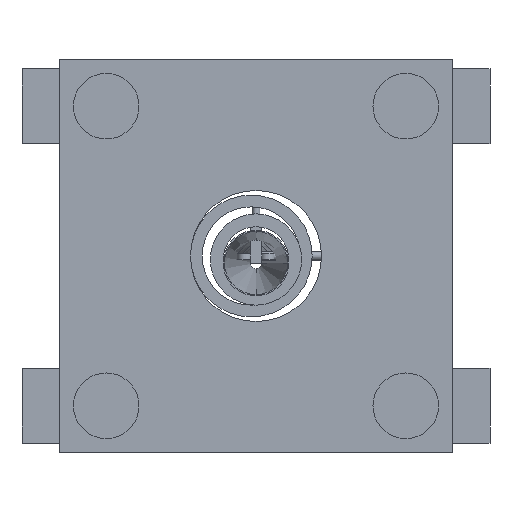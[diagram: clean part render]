
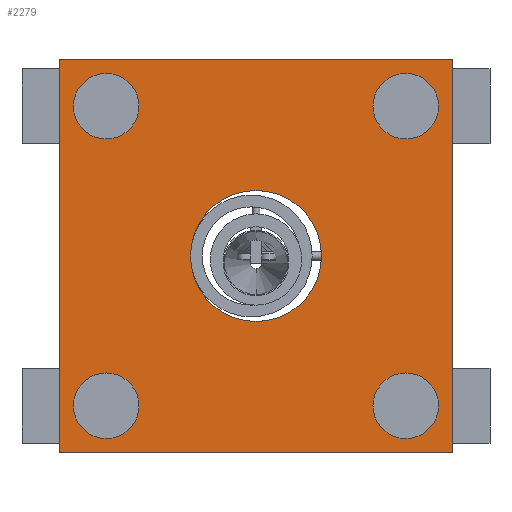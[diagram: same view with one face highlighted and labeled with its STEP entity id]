
A CAD part, front view. The second image highlights one B-rep face of the part: STEP entity #2279.
In plain terms, the highlighted planar face has unit normal (0, -1, 0).
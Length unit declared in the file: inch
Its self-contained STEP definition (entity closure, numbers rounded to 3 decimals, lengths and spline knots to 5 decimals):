
#4 = CARTESIAN_POINT ( 'NONE',  ( 1259.84252, -196.85039, 1259.84252 ) ) ;
#24 = VERTEX_POINT ( 'NONE', #1193 ) ;
#32 = EDGE_CURVE ( 'NONE', #24, #1359, #1750, .T. ) ;
#40 = ORIENTED_EDGE ( 'NONE', *, *, #789, .F. ) ;
#50 = CIRCLE ( 'NONE', #3032, 275.59055 ) ;
#67 = DIRECTION ( 'NONE',  ( 0., -1., 0. ) ) ;
#133 = DIRECTION ( 'NONE',  ( 0., -1., 0. ) ) ;
#195 = LINE ( 'NONE', #245, #1699 ) ;
#225 = ORIENTED_EDGE ( 'NONE', *, *, #3270, .F. ) ;
#236 = DIRECTION ( 'NONE',  ( 0., 0., -1. ) ) ;
#245 = CARTESIAN_POINT ( 'NONE',  ( 1653.54331, -196.85039, 1653.54331 ) ) ;
#260 = CARTESIAN_POINT ( 'NONE',  ( -1259.84252, -196.85039, 1259.84252 ) ) ;
#274 = VERTEX_POINT ( 'NONE', #2112 ) ;
#301 = EDGE_CURVE ( 'NONE', #920, #1444, #853, .T. ) ;
#304 = ORIENTED_EDGE ( 'NONE', *, *, #2432, .F. ) ;
#305 = DIRECTION ( 'NONE',  ( 0., 0., -1. ) ) ;
#365 = VERTEX_POINT ( 'NONE', #3228 ) ;
#411 = ORIENTED_EDGE ( 'NONE', *, *, #2537, .F. ) ;
#419 = CARTESIAN_POINT ( 'NONE',  ( -1259.84252, -196.85039, 1259.84252 ) ) ;
#437 = VECTOR ( 'NONE', #2660, 39.37008 ) ;
#444 = FACE_BOUND ( 'NONE', #2447, .T. ) ;
#449 = EDGE_CURVE ( 'NONE', #365, #2280, #1205, .T. ) ;
#468 = VERTEX_POINT ( 'NONE', #937 ) ;
#516 = DIRECTION ( 'NONE',  ( 0., 0., -1. ) ) ;
#542 = ORIENTED_EDGE ( 'NONE', *, *, #926, .T. ) ;
#579 = CARTESIAN_POINT ( 'NONE',  ( -1259.84252, -196.85039, -1259.84252 ) ) ;
#622 = CARTESIAN_POINT ( 'NONE',  ( 0., -196.85039, 0. ) ) ;
#657 = DIRECTION ( 'NONE',  ( 0., 1., 0. ) ) ;
#662 = PLANE ( 'NONE',  #2482 ) ;
#680 = EDGE_LOOP ( 'NONE', ( #225, #1183, #304, #1433 ) ) ;
#702 = DIRECTION ( 'NONE',  ( 0., 1., 0. ) ) ;
#721 = ORIENTED_EDGE ( 'NONE', *, *, #1813, .T. ) ;
#789 = EDGE_CURVE ( 'NONE', #3096, #3074, #1579, .T. ) ;
#798 = AXIS2_PLACEMENT_3D ( 'NONE', #622, #1877, #2904 ) ;
#820 = CARTESIAN_POINT ( 'NONE',  ( 1259.84252, -196.85039, -1535.43307 ) ) ;
#853 = LINE ( 'NONE', #2661, #1524 ) ;
#866 = DIRECTION ( 'NONE',  ( -1., 0., 0. ) ) ;
#888 = AXIS2_PLACEMENT_3D ( 'NONE', #1129, #1437, #1145 ) ;
#914 = VERTEX_POINT ( 'NONE', #2173 ) ;
#920 = VERTEX_POINT ( 'NONE', #2739 ) ;
#921 = CARTESIAN_POINT ( 'NONE',  ( -1653.54331, -196.85039, 1653.54331 ) ) ;
#926 = EDGE_CURVE ( 'NONE', #1687, #2773, #2974, .T. ) ;
#937 = CARTESIAN_POINT ( 'NONE',  ( -1259.84252, -196.85039, 1535.43307 ) ) ;
#946 = CIRCLE ( 'NONE', #1531, 551.1811 ) ;
#1033 = ORIENTED_EDGE ( 'NONE', *, *, #32, .T. ) ;
#1097 = CIRCLE ( 'NONE', #888, 275.59055 ) ;
#1129 = CARTESIAN_POINT ( 'NONE',  ( -1259.84252, -196.85039, -1259.84252 ) ) ;
#1145 = DIRECTION ( 'NONE',  ( 0., 0., -1. ) ) ;
#1161 = CIRCLE ( 'NONE', #1375, 275.59055 ) ;
#1183 = ORIENTED_EDGE ( 'NONE', *, *, #301, .F. ) ;
#1193 = CARTESIAN_POINT ( 'NONE',  ( 0., -196.85039, 551.1811 ) ) ;
#1205 = LINE ( 'NONE', #921, #2253 ) ;
#1253 = ORIENTED_EDGE ( 'NONE', *, *, #2579, .F. ) ;
#1312 = CIRCLE ( 'NONE', #1481, 275.59055 ) ;
#1340 = FACE_BOUND ( 'NONE', #1585, .T. ) ;
#1359 = VERTEX_POINT ( 'NONE', #1942 ) ;
#1375 = AXIS2_PLACEMENT_3D ( 'NONE', #4, #702, #2217 ) ;
#1401 = EDGE_CURVE ( 'NONE', #2042, #914, #1097, .T. ) ;
#1416 = DIRECTION ( 'NONE',  ( 0., -1., 0. ) ) ;
#1433 = ORIENTED_EDGE ( 'NONE', *, *, #449, .F. ) ;
#1437 = DIRECTION ( 'NONE',  ( 0., -1., 0. ) ) ;
#1444 = VERTEX_POINT ( 'NONE', #1465 ) ;
#1448 = FACE_BOUND ( 'NONE', #2689, .T. ) ;
#1465 = CARTESIAN_POINT ( 'NONE',  ( -1653.54331, -196.85039, -1653.54331 ) ) ;
#1472 = DIRECTION ( 'NONE',  ( 0., 1., 0. ) ) ;
#1481 = AXIS2_PLACEMENT_3D ( 'NONE', #419, #657, #1971 ) ;
#1510 = DIRECTION ( 'NONE',  ( 0., 0., -1. ) ) ;
#1524 = VECTOR ( 'NONE', #866, 39.37008 ) ;
#1531 = AXIS2_PLACEMENT_3D ( 'NONE', #3230, #1472, #1710 ) ;
#1555 = CARTESIAN_POINT ( 'NONE',  ( 1259.84252, -196.85039, 1535.43307 ) ) ;
#1579 = CIRCLE ( 'NONE', #1945, 275.59055 ) ;
#1585 = EDGE_LOOP ( 'NONE', ( #1253, #1780 ) ) ;
#1606 = CARTESIAN_POINT ( 'NONE',  ( -1653.54331, -196.85039, 1653.54331 ) ) ;
#1609 = CARTESIAN_POINT ( 'NONE',  ( 1259.84252, -196.85039, 984.25197 ) ) ;
#1687 = VERTEX_POINT ( 'NONE', #1609 ) ;
#1699 = VECTOR ( 'NONE', #1510, 39.37008 ) ;
#1710 = DIRECTION ( 'NONE',  ( 0., 0., 1. ) ) ;
#1713 = DIRECTION ( 'NONE',  ( 0., -1., 0. ) ) ;
#1741 = DIRECTION ( 'NONE',  ( 0., 0., -1. ) ) ;
#1750 = CIRCLE ( 'NONE', #798, 551.1811 ) ;
#1780 = ORIENTED_EDGE ( 'NONE', *, *, #1401, .F. ) ;
#1781 = CARTESIAN_POINT ( 'NONE',  ( 1259.84252, -196.85039, 1259.84252 ) ) ;
#1813 = EDGE_CURVE ( 'NONE', #1359, #24, #946, .T. ) ;
#1860 = EDGE_CURVE ( 'NONE', #468, #274, #1312, .T. ) ;
#1870 = CARTESIAN_POINT ( 'NONE',  ( -1259.84252, -196.85039, -1535.43307 ) ) ;
#1877 = DIRECTION ( 'NONE',  ( 0., 1., 0. ) ) ;
#1942 = CARTESIAN_POINT ( 'NONE',  ( 0., -196.85039, -551.1811 ) ) ;
#1945 = AXIS2_PLACEMENT_3D ( 'NONE', #2122, #133, #3176 ) ;
#1971 = DIRECTION ( 'NONE',  ( 0., 0., -1. ) ) ;
#1988 = DIRECTION ( 'NONE',  ( 0., 1., 0. ) ) ;
#2042 = VERTEX_POINT ( 'NONE', #1870 ) ;
#2077 = ORIENTED_EDGE ( 'NONE', *, *, #2448, .T. ) ;
#2094 = LINE ( 'NONE', #1606, #437 ) ;
#2112 = CARTESIAN_POINT ( 'NONE',  ( -1259.84252, -196.85039, 984.25197 ) ) ;
#2122 = CARTESIAN_POINT ( 'NONE',  ( 1259.84252, -196.85039, -1259.84252 ) ) ;
#2167 = CARTESIAN_POINT ( 'NONE',  ( 1653.54331, -196.85039, 1653.54331 ) ) ;
#2173 = CARTESIAN_POINT ( 'NONE',  ( -1259.84252, -196.85039, -984.25197 ) ) ;
#2214 = AXIS2_PLACEMENT_3D ( 'NONE', #3000, #1713, #516 ) ;
#2217 = DIRECTION ( 'NONE',  ( 0., 0., -1. ) ) ;
#2253 = VECTOR ( 'NONE', #2996, 39.37008 ) ;
#2275 = CARTESIAN_POINT ( 'NONE',  ( 1259.84252, -196.85039, -984.25197 ) ) ;
#2279 = ADVANCED_FACE ( 'NONE', ( #1340, #2351, #444, #1448, #2889, #3185 ), #662, .T. ) ;
#2280 = VERTEX_POINT ( 'NONE', #2167 ) ;
#2351 = FACE_BOUND ( 'NONE', #3204, .T. ) ;
#2432 = EDGE_CURVE ( 'NONE', #2280, #920, #195, .T. ) ;
#2447 = EDGE_LOOP ( 'NONE', ( #2905, #3094 ) ) ;
#2448 = EDGE_CURVE ( 'NONE', #2773, #1687, #1161, .T. ) ;
#2451 = EDGE_CURVE ( 'NONE', #274, #468, #50, .T. ) ;
#2482 = AXIS2_PLACEMENT_3D ( 'NONE', #2951, #1416, #2653 ) ;
#2537 = EDGE_CURVE ( 'NONE', #3074, #3096, #2806, .T. ) ;
#2579 = EDGE_CURVE ( 'NONE', #914, #2042, #2749, .T. ) ;
#2646 = EDGE_LOOP ( 'NONE', ( #1033, #721 ) ) ;
#2653 = DIRECTION ( 'NONE',  ( 0., 0., -1. ) ) ;
#2660 = DIRECTION ( 'NONE',  ( 0., 0., 1. ) ) ;
#2661 = CARTESIAN_POINT ( 'NONE',  ( -1653.54331, -196.85039, -1653.54331 ) ) ;
#2689 = EDGE_LOOP ( 'NONE', ( #2077, #542 ) ) ;
#2739 = CARTESIAN_POINT ( 'NONE',  ( 1653.54331, -196.85039, -1653.54331 ) ) ;
#2749 = CIRCLE ( 'NONE', #2980, 275.59055 ) ;
#2773 = VERTEX_POINT ( 'NONE', #1555 ) ;
#2806 = CIRCLE ( 'NONE', #2214, 275.59055 ) ;
#2889 = FACE_BOUND ( 'NONE', #2646, .T. ) ;
#2904 = DIRECTION ( 'NONE',  ( 0., 0., 1. ) ) ;
#2905 = ORIENTED_EDGE ( 'NONE', *, *, #1860, .T. ) ;
#2951 = CARTESIAN_POINT ( 'NONE',  ( 0., -196.85039, 0. ) ) ;
#2974 = CIRCLE ( 'NONE', #3072, 275.59055 ) ;
#2980 = AXIS2_PLACEMENT_3D ( 'NONE', #579, #67, #305 ) ;
#2996 = DIRECTION ( 'NONE',  ( 1., 0., 0. ) ) ;
#3000 = CARTESIAN_POINT ( 'NONE',  ( 1259.84252, -196.85039, -1259.84252 ) ) ;
#3032 = AXIS2_PLACEMENT_3D ( 'NONE', #260, #1988, #1741 ) ;
#3057 = DIRECTION ( 'NONE',  ( 0., 1., 0. ) ) ;
#3072 = AXIS2_PLACEMENT_3D ( 'NONE', #1781, #3057, #236 ) ;
#3074 = VERTEX_POINT ( 'NONE', #2275 ) ;
#3094 = ORIENTED_EDGE ( 'NONE', *, *, #2451, .T. ) ;
#3096 = VERTEX_POINT ( 'NONE', #820 ) ;
#3176 = DIRECTION ( 'NONE',  ( 0., 0., -1. ) ) ;
#3185 = FACE_OUTER_BOUND ( 'NONE', #680, .T. ) ;
#3204 = EDGE_LOOP ( 'NONE', ( #411, #40 ) ) ;
#3228 = CARTESIAN_POINT ( 'NONE',  ( -1653.54331, -196.85039, 1653.54331 ) ) ;
#3230 = CARTESIAN_POINT ( 'NONE',  ( 0., -196.85039, 0. ) ) ;
#3270 = EDGE_CURVE ( 'NONE', #1444, #365, #2094, .T. ) ;
